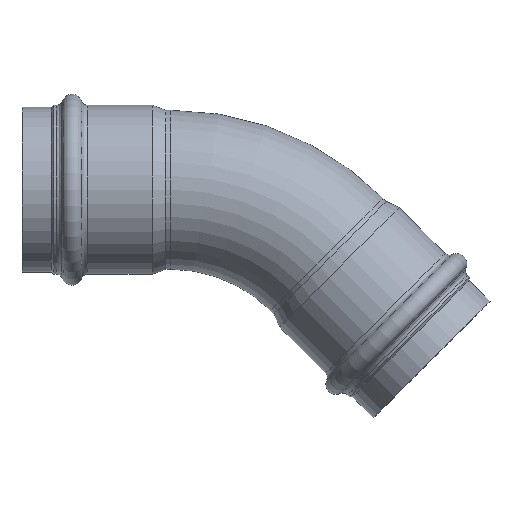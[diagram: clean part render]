
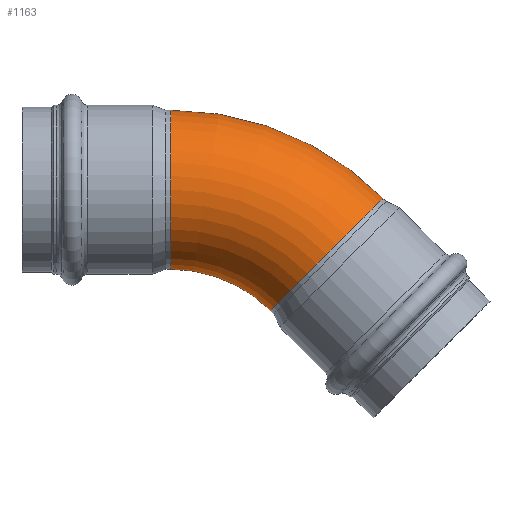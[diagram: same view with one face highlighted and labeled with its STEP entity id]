
A CAD part, top view. The second image highlights one B-rep face of the part: STEP entity #1163.
In plain terms, the highlighted toroidal (fillet/blend) face has major radius 75 mm and minor radius 27 mm.
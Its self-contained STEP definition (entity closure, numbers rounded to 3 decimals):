
#1136=CARTESIAN_POINT('',(0.,-75.0,0.0));
#1137=DIRECTION('',(0.0,0.0,-1.0));
#1138=DIRECTION('',(-1.0,0.0,0.0));
#1139=AXIS2_PLACEMENT_3D('',#1136,#1137,#1138);
#1140=TOROIDAL_SURFACE('',#1139,75.0,27.0);
#1141=CARTESIAN_POINT('',(53.033,-21.967,27.0));
#1142=VERTEX_POINT('',#1141);
#1143=CARTESIAN_POINT('',(53.033,-21.967,0.0));
#1144=DIRECTION('',(0.707,-0.707,0.0));
#1145=DIRECTION('',(0.707,0.707,0.0));
#1146=AXIS2_PLACEMENT_3D('',#1143,#1144,#1145);
#1147=CIRCLE('',#1146,27.);
#1148=EDGE_CURVE('',#1142,#1142,#1147,.T.);
#1149=ORIENTED_EDGE('',*,*,#1148,.F.);
#1150=EDGE_LOOP('',(#1149));
#1151=FACE_OUTER_BOUND('',#1150,.T.);
#1152=CARTESIAN_POINT('',(0.,27.0,0.0));
#1153=VERTEX_POINT('',#1152);
#1154=CARTESIAN_POINT('',(0.,0.,0.0));
#1155=DIRECTION('',(1.0,0.0,0.0));
#1156=DIRECTION('',(0.0,1.0,0.0));
#1157=AXIS2_PLACEMENT_3D('',#1154,#1155,#1156);
#1158=CIRCLE('',#1157,27.0);
#1159=EDGE_CURVE('',#1153,#1153,#1158,.T.);
#1160=ORIENTED_EDGE('',*,*,#1159,.T.);
#1161=EDGE_LOOP('',(#1160));
#1162=FACE_BOUND('',#1161,.T.);
#1163=ADVANCED_FACE('',(#1151,#1162),#1140,.T.);
